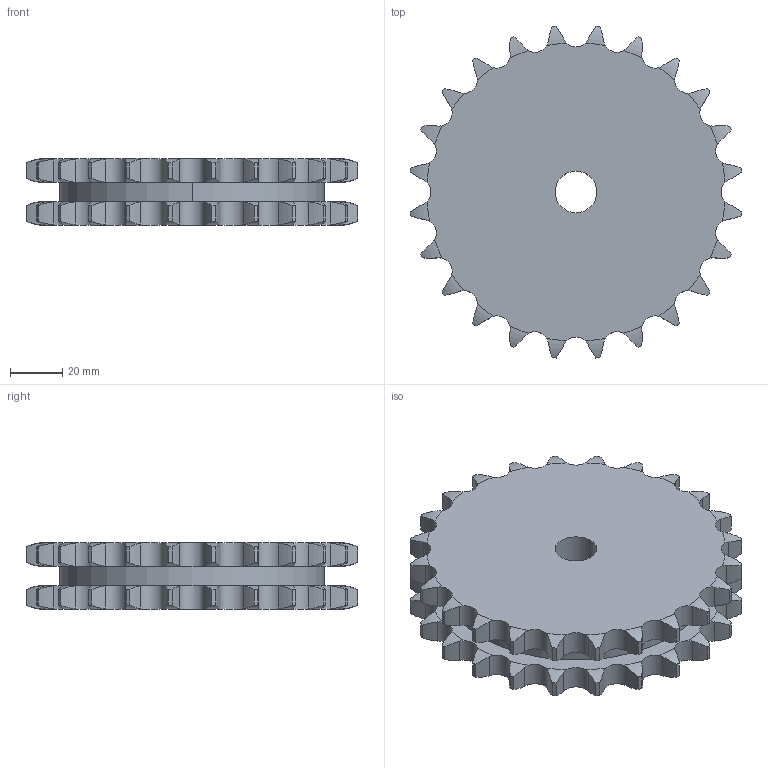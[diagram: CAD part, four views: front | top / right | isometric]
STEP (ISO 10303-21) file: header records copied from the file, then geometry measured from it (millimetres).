
FILE_DESCRIPTION((''),'2;1');
FILE_NAME('500-302-0024_PRT','2021-02-12T',('Brieden'),('Brieden'),'PRO/ENGINEER BY PARAMETRIC TECHNOLOGY CORPORATION, 2010160','PRO/ENGINEER BY PARAMETRIC TECHNOLOGY CORPORATION, 2010160','');
FILE_SCHEMA(('AUTOMOTIVE_DESIGN { 1 0 10303 214 1 1 1 1 }'));
Length unit declared in the file: millimetre
Products named in the file (1): 500-302-0024_PRT
Bounding box: 127.4 x 127.4 x 25.5 mm (x, y, z)
Volume: 251070.4 mm3; surface area: 40488.5 mm2
Topology: 1 solids, 1 shells, 296 faces, 876 edges, 584 vertices
Faces by surface type: cylinder 196, torus 96, plane 4
Entity records: 14342 total; most frequent: CARTESIAN_POINT 4191, ORIENTED_EDGE 1752, DIRECTION 1380, PRESENTATION_STYLE_ASSIGNMENT 877, STYLED_ITEM 877, CURVE_STYLE 876, EDGE_CURVE 876, AXIS2_PLACEMENT_3D 592
